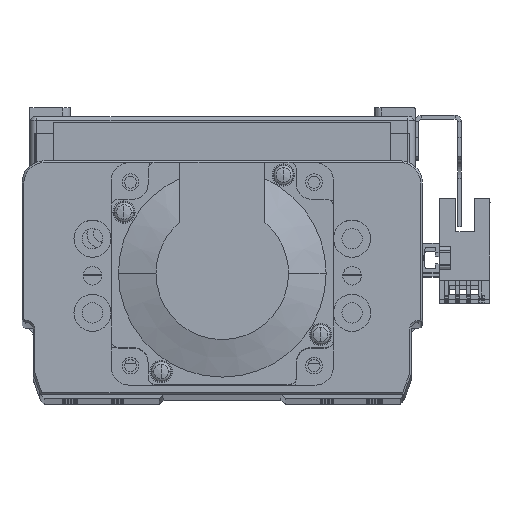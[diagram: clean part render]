
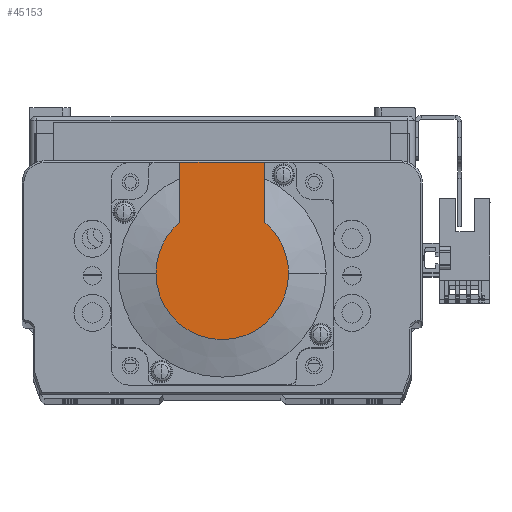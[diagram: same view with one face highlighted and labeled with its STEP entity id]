
A CAD part, top view. The second image highlights one B-rep face of the part: STEP entity #45153.
In plain terms, the highlighted planar face has unit normal (0, 0, 1) as drawn and (-1, 0, 0) by its records, which use the part's own axes.
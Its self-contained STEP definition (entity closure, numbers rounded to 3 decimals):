
#9657 = LINE ( 'NONE', #37424, #9678 ) ;
#9678 = VECTOR ( 'NONE', #37405, 1000. ) ;
#10858 = LINE ( 'NONE', #37327, #10860 ) ;
#10860 = VECTOR ( 'NONE', #37329, 1000. ) ;
#10868 = LINE ( 'NONE', #37252, #10885 ) ;
#10882 = CIRCLE ( 'NONE', #27838, 17.881 ) ;
#10885 = VECTOR ( 'NONE', #37256, 1000. ) ;
#13108 = EDGE_CURVE ( 'NONE', #34968, #35004, #33727, .T. ) ;
#13120 = EDGE_CURVE ( 'NONE', #35017, #34968, #33723, .T. ) ;
#13358 = ORIENTED_EDGE ( 'NONE', *, *, #15009, .F. ) ;
#14991 = EDGE_CURVE ( 'NONE', #35294, #35017, #10882, .T. ) ;
#14992 = EDGE_CURVE ( 'NONE', #16875, #35294, #10868, .T. ) ;
#15009 = EDGE_CURVE ( 'NONE', #16875, #16857, #10858, .T. ) ;
#15033 = EDGE_CURVE ( 'NONE', #16857, #35004, #9657, .T. ) ;
#16857 = VERTEX_POINT ( 'NONE', #23968 ) ;
#16875 = VERTEX_POINT ( 'NONE', #23988 ) ;
#23144 = FACE_OUTER_BOUND ( 'NONE', #35712, .T. ) ;
#23968 = CARTESIAN_POINT ( 'NONE',  ( -99., 30., 11.45 ) ) ;
#23988 = CARTESIAN_POINT ( 'NONE',  ( -99., 30., -11.45 ) ) ;
#27590 = AXIS2_PLACEMENT_3D ( 'NONE', #43770, #43746, #43780 ) ;
#27591 = AXIS2_PLACEMENT_3D ( 'NONE', #43778, #43791, #43719 ) ;
#27838 = AXIS2_PLACEMENT_3D ( 'NONE', #37283, #37291, #37334 ) ;
#28401 = AXIS2_PLACEMENT_3D ( 'NONE', #50323, #50326, #50350 ) ;
#33723 = CIRCLE ( 'NONE', #27590, 17.881 ) ;
#33727 = CIRCLE ( 'NONE', #27591, 17.881 ) ;
#34968 = VERTEX_POINT ( 'NONE', #48867 ) ;
#35004 = VERTEX_POINT ( 'NONE', #48898 ) ;
#35017 = VERTEX_POINT ( 'NONE', #48917 ) ;
#35294 = VERTEX_POINT ( 'NONE', #49411 ) ;
#35712 = EDGE_LOOP ( 'NONE', ( #38386, #38456, #38462, #38491, #38383, #13358 ) ) ;
#37252 = CARTESIAN_POINT ( 'NONE',  ( -99., -8.941, -11.45 ) ) ;
#37256 = DIRECTION ( 'NONE',  ( 0., -1., 0. ) ) ;
#37283 = CARTESIAN_POINT ( 'NONE',  ( -99., 0., 0. ) ) ;
#37291 = DIRECTION ( 'NONE',  ( -1., 0., 0. ) ) ;
#37327 = CARTESIAN_POINT ( 'NONE',  ( -99., 30., 25. ) ) ;
#37329 = DIRECTION ( 'NONE',  ( 0., 0., 1. ) ) ;
#37334 = DIRECTION ( 'NONE',  ( 0., 0., -1. ) ) ;
#37405 = DIRECTION ( 'NONE',  ( 0., -1., 0. ) ) ;
#37424 = CARTESIAN_POINT ( 'NONE',  ( -99., 0., 11.45 ) ) ;
#38383 = ORIENTED_EDGE ( 'NONE', *, *, #15033, .F. ) ;
#38386 = ORIENTED_EDGE ( 'NONE', *, *, #14992, .T. ) ;
#38456 = ORIENTED_EDGE ( 'NONE', *, *, #14991, .T. ) ;
#38462 = ORIENTED_EDGE ( 'NONE', *, *, #13120, .T. ) ;
#38491 = ORIENTED_EDGE ( 'NONE', *, *, #13108, .T. ) ;
#43719 = DIRECTION ( 'NONE',  ( 0., 0., -1. ) ) ;
#43746 = DIRECTION ( 'NONE',  ( -1., 0., 0. ) ) ;
#43770 = CARTESIAN_POINT ( 'NONE',  ( -99., 0., 0. ) ) ;
#43778 = CARTESIAN_POINT ( 'NONE',  ( -99., 0., 0. ) ) ;
#43780 = DIRECTION ( 'NONE',  ( 0., 0., -1. ) ) ;
#43791 = DIRECTION ( 'NONE',  ( -1., 0., 0. ) ) ;
#45153 = ADVANCED_FACE ( 'NONE', ( #23144 ), #50319, .T. ) ;
#48867 = CARTESIAN_POINT ( 'NONE',  ( -99., 0., 17.881 ) ) ;
#48898 = CARTESIAN_POINT ( 'NONE',  ( -99., 13.735, 11.45 ) ) ;
#48917 = CARTESIAN_POINT ( 'NONE',  ( -99., 0., -17.881 ) ) ;
#49411 = CARTESIAN_POINT ( 'NONE',  ( -99., 13.735, -11.45 ) ) ;
#50319 = PLANE ( 'NONE',  #28401 ) ;
#50323 = CARTESIAN_POINT ( 'NONE',  ( -99., -8.941, 0. ) ) ;
#50326 = DIRECTION ( 'NONE',  ( -1., 0., 0. ) ) ;
#50350 = DIRECTION ( 'NONE',  ( 0., 0., 1. ) ) ;
